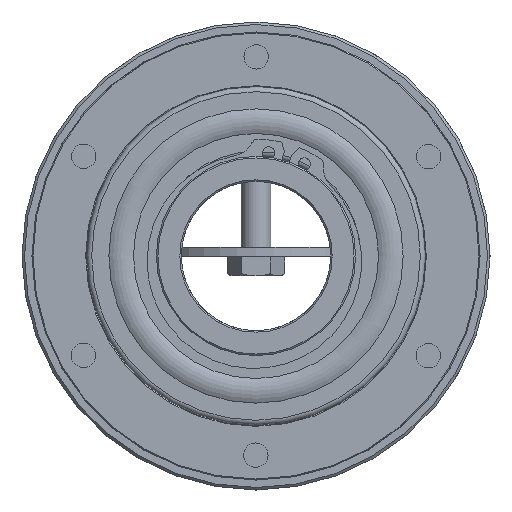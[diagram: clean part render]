
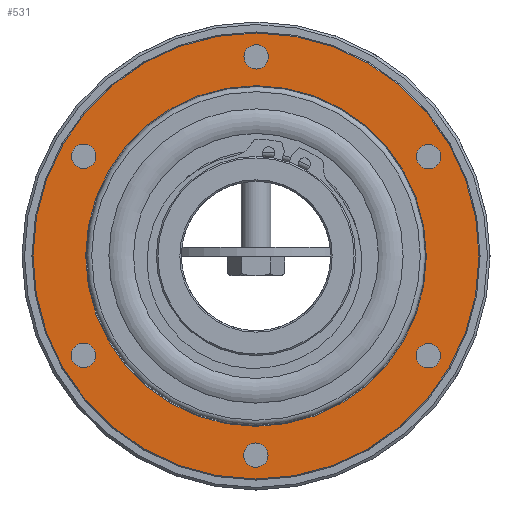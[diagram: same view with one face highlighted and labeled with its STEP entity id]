
A CAD part, left-side view. The second image highlights one B-rep face of the part: STEP entity #531.
In plain terms, the highlighted planar face has unit normal (-1, 0, 0).
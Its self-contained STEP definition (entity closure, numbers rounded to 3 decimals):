
#531 = ADVANCED_FACE( '', ( #1026, #1027, #1028, #1029, #1030, #1031, #1032, #1033 ), #1034, .F. );
#1026 = FACE_OUTER_BOUND( '', #1559, .T. );
#1027 = FACE_BOUND( '', #1560, .T. );
#1028 = FACE_BOUND( '', #1561, .T. );
#1029 = FACE_BOUND( '', #1562, .T. );
#1030 = FACE_BOUND( '', #1563, .T. );
#1031 = FACE_BOUND( '', #1564, .T. );
#1032 = FACE_BOUND( '', #1565, .T. );
#1033 = FACE_BOUND( '', #1566, .T. );
#1034 = PLANE( '', #1567 );
#1559 = EDGE_LOOP( '', ( #2538 ) );
#1560 = EDGE_LOOP( '', ( #2539 ) );
#1561 = EDGE_LOOP( '', ( #2540 ) );
#1562 = EDGE_LOOP( '', ( #2541 ) );
#1563 = EDGE_LOOP( '', ( #2542 ) );
#1564 = EDGE_LOOP( '', ( #2543 ) );
#1565 = EDGE_LOOP( '', ( #2544 ) );
#1566 = EDGE_LOOP( '', ( #2545 ) );
#1567 = AXIS2_PLACEMENT_3D( '', #2546, #2547, #2548 );
#2538 = ORIENTED_EDGE( '', *, *, #3019, .T. );
#2539 = ORIENTED_EDGE( '', *, *, #3020, .T. );
#2540 = ORIENTED_EDGE( '', *, *, #3021, .T. );
#2541 = ORIENTED_EDGE( '', *, *, #3022, .T. );
#2542 = ORIENTED_EDGE( '', *, *, #3023, .T. );
#2543 = ORIENTED_EDGE( '', *, *, #3024, .T. );
#2544 = ORIENTED_EDGE( '', *, *, #3025, .T. );
#2545 = ORIENTED_EDGE( '', *, *, #3026, .T. );
#2546 = CARTESIAN_POINT( '', ( -15.3, 45., 0. ) );
#2547 = DIRECTION( '', ( 1., 0., 0. ) );
#2548 = DIRECTION( '', ( 0., 1., 0. ) );
#3019 = EDGE_CURVE( '', #3492, #3492, #3493, .T. );
#3020 = EDGE_CURVE( '', #3494, #3494, #3495, .T. );
#3021 = EDGE_CURVE( '', #3496, #3496, #3497, .T. );
#3022 = EDGE_CURVE( '', #3498, #3498, #3499, .T. );
#3023 = EDGE_CURVE( '', #3500, #3500, #3501, .T. );
#3024 = EDGE_CURVE( '', #3502, #3502, #3503, .T. );
#3025 = EDGE_CURVE( '', #3504, #3504, #3505, .T. );
#3026 = EDGE_CURVE( '', #3506, #3506, #3507, .T. );
#3492 = VERTEX_POINT( '', #4428 );
#3493 = CIRCLE( '', #4429, 44.8 );
#3494 = VERTEX_POINT( '', #4430 );
#3495 = CIRCLE( '', #4431, 34.2 );
#3496 = VERTEX_POINT( '', #4432 );
#3497 = CIRCLE( '', #4433, 2.459 );
#3498 = VERTEX_POINT( '', #4434 );
#3499 = CIRCLE( '', #4435, 2.459 );
#3500 = VERTEX_POINT( '', #4436 );
#3501 = CIRCLE( '', #4437, 2.459 );
#3502 = VERTEX_POINT( '', #4438 );
#3503 = CIRCLE( '', #4439, 2.459 );
#3504 = VERTEX_POINT( '', #4440 );
#3505 = CIRCLE( '', #4441, 2.459 );
#3506 = VERTEX_POINT( '', #4442 );
#3507 = CIRCLE( '', #4443, 2.459 );
#4428 = CARTESIAN_POINT( '', ( -15.3, 0., -44.8 ) );
#4429 = AXIS2_PLACEMENT_3D( '', #5074, #5075, #5076 );
#4430 = CARTESIAN_POINT( '', ( -15.3, 0., -34.2 ) );
#4431 = AXIS2_PLACEMENT_3D( '', #5077, #5078, #5079 );
#4432 = CARTESIAN_POINT( '', ( -15.3, 36.77, 21.229 ) );
#4433 = AXIS2_PLACEMENT_3D( '', #5080, #5081, #5082 );
#4434 = CARTESIAN_POINT( '', ( -15.3, 36.77, -21.229 ) );
#4435 = AXIS2_PLACEMENT_3D( '', #5083, #5084, #5085 );
#4436 = CARTESIAN_POINT( '', ( -15.3, 0., -42.459 ) );
#4437 = AXIS2_PLACEMENT_3D( '', #5086, #5087, #5088 );
#4438 = CARTESIAN_POINT( '', ( -15.3, -36.77, -21.229 ) );
#4439 = AXIS2_PLACEMENT_3D( '', #5089, #5090, #5091 );
#4440 = CARTESIAN_POINT( '', ( -15.3, -36.77, 21.229 ) );
#4441 = AXIS2_PLACEMENT_3D( '', #5092, #5093, #5094 );
#4442 = CARTESIAN_POINT( '', ( -15.3, 0., 42.459 ) );
#4443 = AXIS2_PLACEMENT_3D( '', #5095, #5096, #5097 );
#5074 = CARTESIAN_POINT( '', ( -15.3, 0., 0. ) );
#5075 = DIRECTION( '', ( -1., 0., 0. ) );
#5076 = DIRECTION( '', ( 0., 0., -1. ) );
#5077 = CARTESIAN_POINT( '', ( -15.3, 0., 0. ) );
#5078 = DIRECTION( '', ( 1., 0., 0. ) );
#5079 = DIRECTION( '', ( 0., 0., -1. ) );
#5080 = CARTESIAN_POINT( '', ( -15.3, 34.641, 20. ) );
#5081 = DIRECTION( '', ( 1., 0., 0. ) );
#5082 = DIRECTION( '', ( 0., 0.866, 0.5 ) );
#5083 = CARTESIAN_POINT( '', ( -15.3, 34.641, -20. ) );
#5084 = DIRECTION( '', ( 1., 0., 0. ) );
#5085 = DIRECTION( '', ( 0., 0.866, -0.5 ) );
#5086 = CARTESIAN_POINT( '', ( -15.3, 0., -40. ) );
#5087 = DIRECTION( '', ( 1., 0., 0. ) );
#5088 = DIRECTION( '', ( 0., 0., -1. ) );
#5089 = CARTESIAN_POINT( '', ( -15.3, -34.641, -20. ) );
#5090 = DIRECTION( '', ( 1., 0., 0. ) );
#5091 = DIRECTION( '', ( 0., -0.866, -0.5 ) );
#5092 = CARTESIAN_POINT( '', ( -15.3, -34.641, 20. ) );
#5093 = DIRECTION( '', ( 1., 0., 0. ) );
#5094 = DIRECTION( '', ( 0., -0.866, 0.5 ) );
#5095 = CARTESIAN_POINT( '', ( -15.3, 0., 40. ) );
#5096 = DIRECTION( '', ( 1., 0., 0. ) );
#5097 = DIRECTION( '', ( 0., 0., 1. ) );
